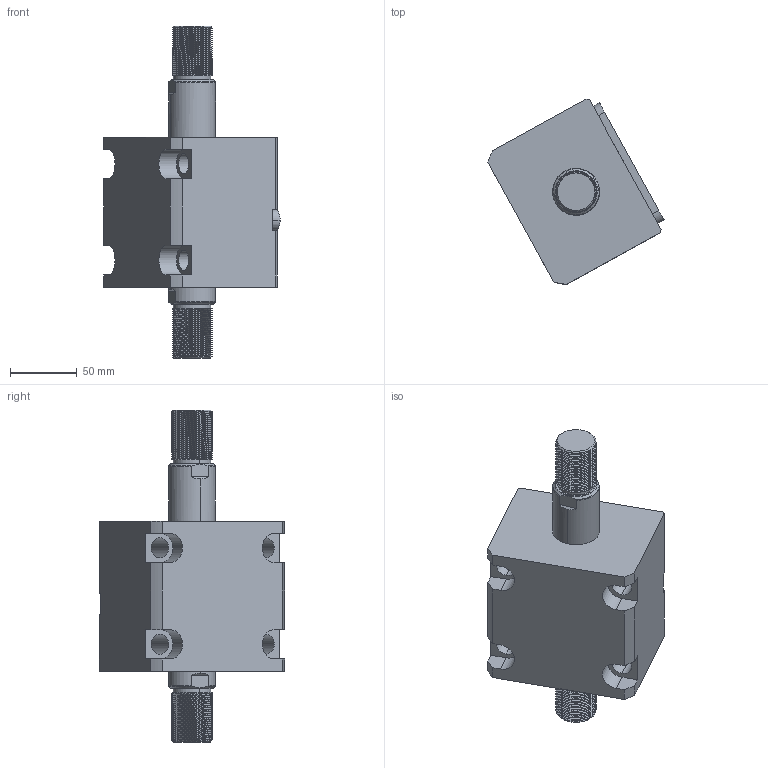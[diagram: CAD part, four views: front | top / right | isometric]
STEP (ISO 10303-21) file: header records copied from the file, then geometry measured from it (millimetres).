
FILE_DESCRIPTION (( 'STEP AP214' ), '1' );
FILE_NAME ('chtb-lwm63x30w_asm.STEP', '2018-05-22T01:28:34', ( 'Windows' ), ( 'Microsoft' ), 'SwSTEP 2.0', 'SolidWorks 2015', '' );
FILE_SCHEMA (( 'AUTOMOTIVE_DESIGN' ));
Length unit declared in the file: millimetre
Products named in the file (5): CHTB-SW63X30WHSG; CHTB-LWM63X30NBT; CHTB-LA63PJ; CHTB-63QG; chtb-lwm63x30w_asm
Assembly tree (4 placements, depth 2):
  chtb-lwm63x30w_asm
    CHTB-63QG
    CHTB-LA63PJ
    CHTB-LWM63X30NBT
    CHTB-SW63X30WHSG
Bounding box: 131.6 x 138.22 x 248 mm (x, y, z)
Volume: 1102488.8 mm3; surface area: 163973.9 mm2
Topology: 4 solids, 4 shells, 298 faces, 869 edges, 587 vertices
Faces by surface type: cylinder 203, plane 55, bspline 16, cone 12, torus 12
Entity records: 27660 total; most frequent: CARTESIAN_POINT 20506, ORIENTED_EDGE 1730, DIRECTION 1186, EDGE_CURVE 865, VERTEX_POINT 587, AXIS2_PLACEMENT_3D 440, EDGE_LOOP 326, LINE 306
